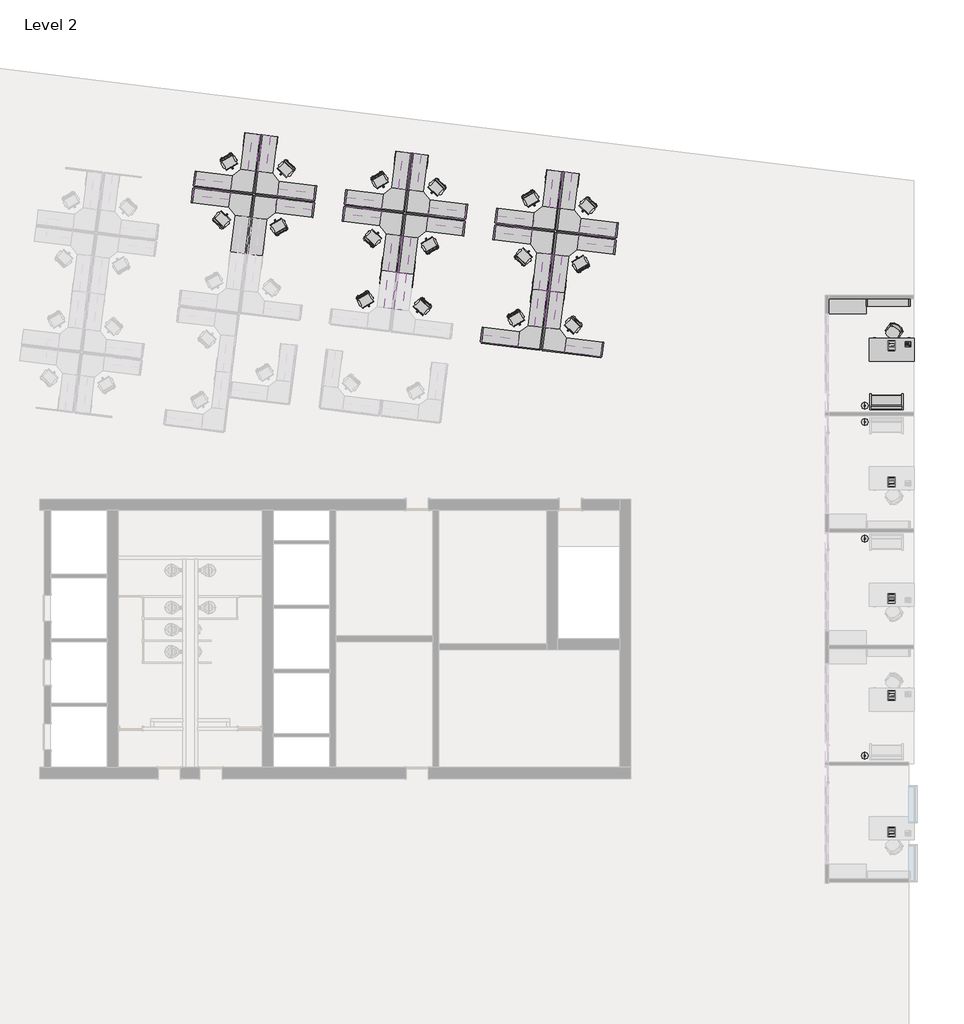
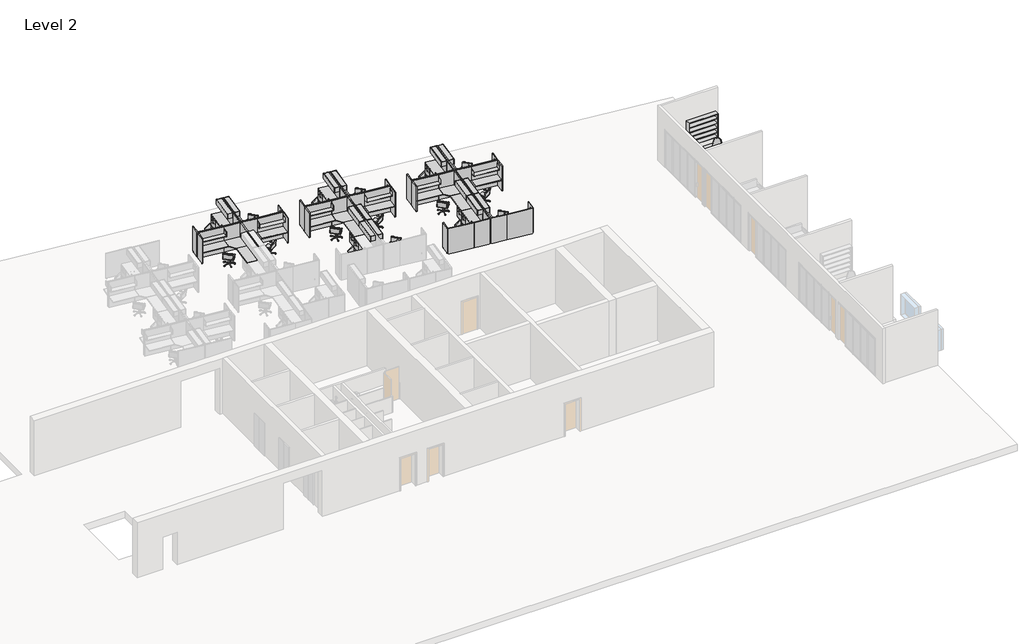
# One storey, part 7 of 7: 91 furniture elements, 6 proxies, 4 light fixtures.
"""IFC4 building model written with IfcOpenShell, lengths in millimetres."""

from ifc_helpers import new_model, si_unit, origin, place, context, project, spatial, transform, mapped, element, save
from components import entourage_0ad6723a, entourage_8dadc95b, phone_phone_5230e7aa, chair_executive_chair_executive_8d69e98c, chair_task_arms_chair_task_arms_3b363349, chair_task_arms_chair_task_arms_8395c10b, furniture_2f1724fb, furniture_665347ce, furniture_3ceed070, furniture_2fc54265, overhead_shelving_module_overhead_shelving_module_3ee17988, overhead_shelving_module_overhead_shelving_module_7dcda1b9, overhead_storage_module_overhead_storage_module_326dc690, overhead_storage_module_overhead_storage_module_bea9f75f, furniture_6f8441ab, furniture_8ec9ccbf, furniture_0333d240, furniture_4718bb14, furniture_45e3acac, furniture_7b33082a, floor_lamp_arm_extension_100w_120v_4af38d8b, floor_lamp_arm_extension_100w_120v_fe5062a9

model = new_model("IFC4")

# Units and contexts
model_context = context("Model", 3, world=origin())
ifc_project = project(units=[si_unit("LENGTHUNIT", "METRE", prefix="MILLI")], contexts=[model_context])

# Site, building, storey
site = spatial("IfcSite", under=ifc_project)
building = spatial("IfcBuilding", under=site)
storey = spatial("IfcBuildingStorey", under=building, Name="Level 2", Elevation=3657.6)

# Proxies
placement = place(None, origin())
entourage_shape = entourage_0ad6723a(model_context)
element("IfcBuildingElementProxy", 1, Name="RPC Notebook Computer : RPC Notebook Computer", ObjectType="RPC Notebook Computer : RPC Notebook Computer", at=placement, inside=storey, context=model_context, shape_type="MappedRepresentation", body=[
    mapped(entourage_shape, transform((14128.9054088, 3143.6530205, 4419.6), x_axis=(-1.0, 0.0, 0.0), y_axis=(0.0, -1.0, 0.0), z_axis=(0.0, 0.0, 1.0))),
])
element("IfcBuildingElementProxy", 2, Name="RPC Notebook Computer : RPC Notebook Computer", ObjectType="RPC Notebook Computer : RPC Notebook Computer", at=placement, inside=storey, context=model_context, shape_type="MappedRepresentation", body=[
    mapped(entourage_shape, transform((14128.9054088, -11359.8598812, 4419.6), x_axis=(-1.0, 0.0, 0.0), y_axis=(0.0, -1.0, 0.0), z_axis=(0.0, 0.0, 1.0))),
])
entourage_2_shape = entourage_8dadc95b(model_context)
element("IfcBuildingElementProxy", 3, Name="RPC Notebook Computer : RPC Notebook Computer", ObjectType="RPC Notebook Computer : RPC Notebook Computer", at=placement, inside=storey, context=model_context, shape_type="MappedRepresentation", body=[
    mapped(entourage_2_shape, transform((14128.9054088, -2561.0729155, 4419.6), x_axis=(-1.0, 0.0, 0.0), y_axis=(0.0, -1.0, 0.0), z_axis=(0.0, 0.0, 1.0))),
])
element("IfcBuildingElementProxy", 4, Name="RPC Notebook Computer : RPC Notebook Computer", ObjectType="RPC Notebook Computer : RPC Notebook Computer", at=placement, inside=storey, context=model_context, shape_type="MappedRepresentation", body=[
    mapped(entourage_2_shape, transform((14128.9054088, -7395.577216, 4419.6), x_axis=(-1.0, 0.0, 0.0), y_axis=(0.0, -1.0, 0.0), z_axis=(0.0, 0.0, 1.0))),
])
element("IfcBuildingElementProxy", 5, Name="RPC Notebook Computer : RPC Notebook Computer", ObjectType="RPC Notebook Computer : RPC Notebook Computer", at=placement, inside=storey, context=model_context, shape_type="MappedRepresentation", body=[
    mapped(entourage_2_shape, transform((14128.9054088, -17064.5858172, 4419.6), x_axis=(-1.0, 0.0, 0.0), y_axis=(0.0, -1.0, 0.0), z_axis=(0.0, 0.0, 1.0))),
])
phone_phone_shape = phone_phone_5230e7aa(model_context)
element("IfcBuildingElementProxy", 6, Name="Phone : Phone", ObjectType="Phone : Phone", at=placement, inside=storey, context=model_context, shape_type="MappedRepresentation", body=[
    mapped(phone_phone_shape, transform((15049.386755, 2959.7567915, 4419.6), x_axis=(1.0, 0.0, 0.0), y_axis=(0.0, 1.0, 0.0), z_axis=(0.0, 0.0, 1.0))),
])

# Furniture
chair_executive_chair_executive_shape = chair_executive_chair_executive_8d69e98c(model_context)
element("IfcFurniture", 7, ObjectType="Chair-Executive : Chair-Executive", at=placement, inside=storey, context=model_context, shape_type="MappedRepresentation", body=[
    mapped(chair_executive_chair_executive_shape, transform((14331.1988374, 3608.0945539, 3657.6), x_axis=(-0.8386705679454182, 0.5446390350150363, 0.0), y_axis=(-0.5446390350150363, -0.8386705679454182, 0.0), z_axis=(0.0, 0.0, 1.0))),
])
chair_task_arms_chair_task_arms_shape = chair_task_arms_chair_task_arms_3b363349(model_context)
element("IfcFurniture", 8, ObjectType="Chair-Task Arms : Chair-Task Arms", at=placement, inside=storey, context=model_context, shape_type="MappedRepresentation", body=[
    mapped(chair_task_arms_chair_task_arms_shape, transform((-13751.3216065, 8411.1318115, 3657.6), x_axis=(0.7193398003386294, -0.6946583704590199, 0.0), y_axis=(0.6946583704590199, 0.7193398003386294, 0.0), z_axis=(0.0, 0.0, 1.0))),
])
element("IfcFurniture", 9, ObjectType="Chair-Task Arms : Chair-Task Arms", at=placement, inside=storey, context=model_context, shape_type="MappedRepresentation", body=[
    mapped(chair_task_arms_chair_task_arms_shape, transform((-7499.074888, 7643.4524435, 3657.6), x_axis=(0.7193398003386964, -0.6946583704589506, 0.0), y_axis=(0.6946583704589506, 0.7193398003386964, 0.0), z_axis=(0.0, 0.0, 1.0))),
])
element("IfcFurniture", 10, ObjectType="Chair-Task Arms : Chair-Task Arms", at=placement, inside=storey, context=model_context, shape_type="MappedRepresentation", body=[
    mapped(chair_task_arms_chair_task_arms_shape, transform((-10847.9259123, 10367.6844822, 3657.6), x_axis=(-0.719339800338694, 0.694658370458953, 0.0), y_axis=(-0.694658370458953, -0.719339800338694, 0.0), z_axis=(0.0, 0.0, 1.0))),
])
element("IfcFurniture", 11, ObjectType="Chair-Task Arms : Chair-Task Arms", at=placement, inside=storey, context=model_context, shape_type="MappedRepresentation", body=[
    mapped(chair_task_arms_chair_task_arms_shape, transform((-4595.6791939, 9600.0051143, 3657.6), x_axis=(-0.719339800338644, 0.6946583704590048, 0.0), y_axis=(-0.6946583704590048, -0.719339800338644, 0.0), z_axis=(0.0, 0.0, 1.0))),
])
element("IfcFurniture", 12, ObjectType="Chair-Task Arms : Chair-Task Arms", at=placement, inside=storey, context=model_context, shape_type="MappedRepresentation", body=[
    mapped(chair_task_arms_chair_task_arms_shape, transform((-5202.3935331, 4658.7133529, 3657.6), x_axis=(-0.7193398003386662, 0.6946583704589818, 0.0), y_axis=(-0.6946583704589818, -0.7193398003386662, 0.0), z_axis=(0.0, 0.0, 1.0))),
])
element("IfcFurniture", 13, ObjectType="Chair-Task Arms : Chair-Task Arms", at=placement, inside=storey, context=model_context, shape_type="MappedRepresentation", body=[
    mapped(chair_task_arms_chair_task_arms_shape, transform((-1246.8281696, 6875.7730755, 3657.6), x_axis=(0.7193398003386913, -0.694658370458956, 0.0), y_axis=(0.694658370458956, 0.7193398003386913, 0.0), z_axis=(0.0, 0.0, 1.0))),
])
element("IfcFurniture", 14, ObjectType="Chair-Task Arms : Chair-Task Arms", at=placement, inside=storey, context=model_context, shape_type="MappedRepresentation", body=[
    mapped(chair_task_arms_chair_task_arms_shape, transform((1656.5675245, 8832.3257463, 3657.6), x_axis=(-0.7193398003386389, 0.6946583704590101, 0.0), y_axis=(-0.6946583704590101, -0.7193398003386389, 0.0), z_axis=(0.0, 0.0, 1.0))),
])
element("IfcFurniture", 15, ObjectType="Chair-Task Arms : Chair-Task Arms", at=placement, inside=storey, context=model_context, shape_type="MappedRepresentation", body=[
    mapped(chair_task_arms_chair_task_arms_shape, transform((1049.8531853, 3891.033985, 3657.6), x_axis=(-0.7193398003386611, 0.6946583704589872, 0.0), y_axis=(-0.6946583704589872, -0.7193398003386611, 0.0), z_axis=(0.0, 0.0, 1.0))),
])
chair_task_arms_chair_task_arms_2_shape = chair_task_arms_chair_task_arms_8395c10b(model_context)
element("IfcFurniture", 16, ObjectType="Chair-Task Arms : Chair-Task Arms", at=placement, inside=storey, context=model_context, shape_type="MappedRepresentation", body=[
    mapped(chair_task_arms_chair_task_arms_2_shape, transform((-13471.5335108, 10689.8229892, 3657.6), x_axis=(0.8660254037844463, 0.4999999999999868, 0.0), y_axis=(-0.4999999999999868, 0.8660254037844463, 0.0), z_axis=(0.0, 0.0, 1.0))),
])
element("IfcFurniture", 17, ObjectType="Chair-Task Arms : Chair-Task Arms", at=placement, inside=storey, context=model_context, shape_type="MappedRepresentation", body=[
    mapped(chair_task_arms_chair_task_arms_2_shape, transform((-7219.2867923, 9922.1436212, 3657.6), x_axis=(0.8660254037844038, 0.5000000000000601, 0.0), y_axis=(-0.5000000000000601, 0.8660254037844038, 0.0), z_axis=(0.0, 0.0, 1.0))),
])
element("IfcFurniture", 18, ObjectType="Chair-Task Arms : Chair-Task Arms", at=placement, inside=storey, context=model_context, shape_type="MappedRepresentation", body=[
    mapped(chair_task_arms_chair_task_arms_2_shape, transform((-11127.714008, 8088.9933045, 3657.6), x_axis=(-0.8660254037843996, -0.5000000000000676, 0.0), y_axis=(0.5000000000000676, -0.8660254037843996, 0.0), z_axis=(0.0, 0.0, 1.0))),
])
element("IfcFurniture", 19, ObjectType="Chair-Task Arms : Chair-Task Arms", at=placement, inside=storey, context=model_context, shape_type="MappedRepresentation", body=[
    mapped(chair_task_arms_chair_task_arms_2_shape, transform((-7826.0011316, 4980.8518599, 3657.6), x_axis=(0.8660254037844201, 0.5000000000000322, 0.0), y_axis=(-0.5000000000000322, 0.8660254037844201, 0.0), z_axis=(0.0, 0.0, 1.0))),
])
element("IfcFurniture", 20, ObjectType="Chair-Task Arms : Chair-Task Arms", at=placement, inside=storey, context=model_context, shape_type="MappedRepresentation", body=[
    mapped(chair_task_arms_chair_task_arms_2_shape, transform((-4875.4672896, 7321.3139366, 3657.6), x_axis=(-0.8660254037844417, -0.49999999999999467, 0.0), y_axis=(0.49999999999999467, -0.8660254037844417, 0.0), z_axis=(0.0, 0.0, 1.0))),
])
element("IfcFurniture", 21, ObjectType="Chair-Task Arms : Chair-Task Arms", at=placement, inside=storey, context=model_context, shape_type="MappedRepresentation", body=[
    mapped(chair_task_arms_chair_task_arms_2_shape, transform((-967.0400739, 9154.4642532, 3657.6), x_axis=(0.8660254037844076, 0.5000000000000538, 0.0), y_axis=(-0.5000000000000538, 0.8660254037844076, 0.0), z_axis=(0.0, 0.0, 1.0))),
])
element("IfcFurniture", 22, ObjectType="Chair-Task Arms : Chair-Task Arms", at=placement, inside=storey, context=model_context, shape_type="MappedRepresentation", body=[
    mapped(chair_task_arms_chair_task_arms_2_shape, transform((-1573.7544131, 4213.1724919, 3657.6), x_axis=(0.8660254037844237, 0.5000000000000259, 0.0), y_axis=(-0.5000000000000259, 0.8660254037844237, 0.0), z_axis=(0.0, 0.0, 1.0))),
])
element("IfcFurniture", 23, ObjectType="Chair-Task Arms : Chair-Task Arms", at=placement, inside=storey, context=model_context, shape_type="MappedRepresentation", body=[
    mapped(chair_task_arms_chair_task_arms_2_shape, transform((1376.7794288, 6553.6345686, 3657.6), x_axis=(-0.8660254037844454, -0.4999999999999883, 0.0), y_axis=(0.4999999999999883, -0.8660254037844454, 0.0), z_axis=(0.0, 0.0, 1.0))),
])
furniture_shape = furniture_2f1724fb(model_context)
element("IfcFurniture", 24, ObjectType="Credenza : 60\" x 24\"", at=placement, inside=storey, context=model_context, shape_type="MappedRepresentation", body=[
    mapped(furniture_shape, transform((12221.5111465, 4755.7246809, 3657.6), x_axis=(1.0, 0.0, 0.0), y_axis=(0.0, 1.0, 0.0), z_axis=(0.0, 0.0, 1.0))),
])
furniture_2_shape = furniture_665347ce(model_context)
element("IfcFurniture", 25, ObjectType="Cube Panel : 24\" x 66\"", at=placement, inside=storey, context=model_context, shape_type="MappedRepresentation", body=[
    mapped(furniture_2_shape, transform((-14838.8170508, 9342.9113863, 3657.6), x_axis=(-0.12186934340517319, -0.9925461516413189, 0.0), y_axis=(0.9925461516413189, -0.12186934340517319, 0.0), z_axis=(0.0, 0.0, 1.0))),
])
element("IfcFurniture", 26, ObjectType="Cube Panel : 24\" x 66\"", at=placement, inside=storey, context=model_context, shape_type="MappedRepresentation", body=[
    mapped(furniture_2_shape, transform((-8586.5703324, 8575.2320183, 3657.6), x_axis=(-0.12186934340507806, -0.9925461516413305, 0.0), y_axis=(0.9925461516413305, -0.12186934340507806, 0.0), z_axis=(0.0, 0.0, 1.0))),
])
element("IfcFurniture", 27, ObjectType="Cube Panel : 24\" x 66\"", at=placement, inside=storey, context=model_context, shape_type="MappedRepresentation", body=[
    mapped(furniture_2_shape, transform((-9760.430468, 9435.9049075, 3657.6), x_axis=(0.12186934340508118, 0.9925461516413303, 0.0), y_axis=(-0.9925461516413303, 0.12186934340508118, 0.0), z_axis=(0.0, 0.0, 1.0))),
])
element("IfcFurniture", 28, ObjectType="Cube Panel : 24\" x 66\"", at=placement, inside=storey, context=model_context, shape_type="MappedRepresentation", body=[
    mapped(furniture_2_shape, transform((-3508.1837495, 8668.2255395, 3657.6), x_axis=(0.12186934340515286, 0.9925461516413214, 0.0), y_axis=(-0.9925461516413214, 0.12186934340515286, 0.0), z_axis=(0.0, 0.0, 1.0))),
])
element("IfcFurniture", 29, ObjectType="Cube Panel : 24\" x 66\"", at=placement, inside=storey, context=model_context, shape_type="MappedRepresentation", body=[
    mapped(furniture_2_shape, transform((-2334.323614, 7807.5526503, 3657.6), x_axis=(-0.12186934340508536, -0.9925461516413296, 0.0), y_axis=(0.9925461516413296, -0.12186934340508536, 0.0), z_axis=(0.0, 0.0, 1.0))),
])
element("IfcFurniture", 30, ObjectType="Cube Panel : 24\" x 66\"", at=placement, inside=storey, context=model_context, shape_type="MappedRepresentation", body=[
    mapped(furniture_2_shape, transform((2744.0629689, 7900.5461715, 3657.6), x_axis=(0.12186934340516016, 0.9925461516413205, 0.0), y_axis=(-0.9925461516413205, 0.12186934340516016, 0.0), z_axis=(0.0, 0.0, 1.0))),
])
element("IfcFurniture", 31, ObjectType="Cube Panel : 24\" x 66\"", at=placement, inside=storey, context=model_context, shape_type="MappedRepresentation", body=[
    mapped(furniture_2_shape, transform((2137.3486297, 2959.2544102, 3657.6), x_axis=(0.12186934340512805, 0.9925461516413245, 0.0), y_axis=(-0.9925461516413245, 0.12186934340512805, 0.0), z_axis=(0.0, 0.0, 1.0))),
])
furniture_3_shape = furniture_3ceed070(model_context)
element("IfcFurniture", 32, ObjectType="Cube Panel : 24\" x 66\"", at=placement, inside=storey, context=model_context, shape_type="MappedRepresentation", body=[
    mapped(furniture_3_shape, transform((-14752.1435738, 10048.8102093, 3657.6), x_axis=(0.1218693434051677, 0.9925461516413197, 0.0), y_axis=(-0.9925461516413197, 0.1218693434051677, 0.0), z_axis=(0.0, 0.0, 1.0))),
])
element("IfcFurniture", 33, ObjectType="Cube Panel : 24\" x 66\"", at=placement, inside=storey, context=model_context, shape_type="MappedRepresentation", body=[
    mapped(furniture_3_shape, transform((-8499.8968554, 9281.1308413, 3657.6), x_axis=(0.12186934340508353, 0.9925461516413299, 0.0), y_axis=(-0.9925461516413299, 0.12186934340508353, 0.0), z_axis=(0.0, 0.0, 1.0))),
])
element("IfcFurniture", 34, ObjectType="Cube Panel : 24\" x 66\"", at=placement, inside=storey, context=model_context, shape_type="MappedRepresentation", body=[
    mapped(furniture_3_shape, transform((-9847.103945, 8730.0060844, 3657.6), x_axis=(-0.1218693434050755, -0.992546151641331, 0.0), y_axis=(0.992546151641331, -0.1218693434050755, 0.0), z_axis=(0.0, 0.0, 1.0))),
])
element("IfcFurniture", 35, ObjectType="Cube Panel : 24\" x 66\"", at=placement, inside=storey, context=model_context, shape_type="MappedRepresentation", body=[
    mapped(furniture_3_shape, transform((-3594.8572266, 7962.3267164, 3657.6), x_axis=(-0.12186934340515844, -0.9925461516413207, 0.0), y_axis=(0.9925461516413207, -0.12186934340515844, 0.0), z_axis=(0.0, 0.0, 1.0))),
])
element("IfcFurniture", 36, ObjectType="Cube Panel : 24\" x 66\"", at=placement, inside=storey, context=model_context, shape_type="MappedRepresentation", body=[
    mapped(furniture_3_shape, transform((-2247.6501369, 8513.4514734, 3657.6), x_axis=(0.12186934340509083, 0.992546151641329, 0.0), y_axis=(-0.992546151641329, 0.12186934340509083, 0.0), z_axis=(0.0, 0.0, 1.0))),
])
element("IfcFurniture", 37, ObjectType="Cube Panel : 24\" x 66\"", at=placement, inside=storey, context=model_context, shape_type="MappedRepresentation", body=[
    mapped(furniture_3_shape, transform((-2854.3644762, 3572.159712, 3657.6), x_axis=(0.1218693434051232, 0.9925461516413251, 0.0), y_axis=(-0.9925461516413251, 0.1218693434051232, 0.0), z_axis=(0.0, 0.0, 1.0))),
])
element("IfcFurniture", 38, ObjectType="Cube Panel : 24\" x 66\"", at=placement, inside=storey, context=model_context, shape_type="MappedRepresentation", body=[
    mapped(furniture_3_shape, transform((2657.3894919, 7194.6473485, 3657.6), x_axis=(-0.12186934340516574, -0.9925461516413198, 0.0), y_axis=(0.9925461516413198, -0.12186934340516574, 0.0), z_axis=(0.0, 0.0, 1.0))),
])
furniture_4_shape = furniture_2fc54265(model_context)
element("IfcFurniture", 39, ObjectType="Desk : 72\" x 36\"", at=placement, inside=storey, context=model_context, shape_type="MappedRepresentation", body=[
    mapped(furniture_4_shape, transform((13214.5054088, 2495.9530205, 3657.6), x_axis=(1.0, 0.0, 0.0), y_axis=(0.0, 1.0, 0.0), z_axis=(0.0, 0.0, 1.0))),
])
overhead_shelving_module_overhead_shelving_module_shape = overhead_shelving_module_overhead_shelving_module_3ee17988(model_context)
element("IfcFurniture", 40, ObjectType="Overhead Shelving Module : Overhead Shelving Module", at=placement, inside=storey, context=model_context, shape_type="MappedRepresentation", body=[
    mapped(overhead_shelving_module_overhead_shelving_module_shape, transform((-13892.315159, 9295.8473751, 3505.2), x_axis=(0.9925461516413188, -0.12186934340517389, 0.0), y_axis=(0.12186934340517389, 0.9925461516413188, 0.0), z_axis=(0.0, 0.0, 1.0))),
])
element("IfcFurniture", 41, ObjectType="Overhead Shelving Module : Overhead Shelving Module", at=placement, inside=storey, context=model_context, shape_type="MappedRepresentation", body=[
    mapped(overhead_shelving_module_overhead_shelving_module_shape, transform((-7640.0684405, 8528.1680071, 3505.2), x_axis=(0.9925461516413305, -0.12186934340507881, 0.0), y_axis=(0.12186934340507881, 0.9925461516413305, 0.0), z_axis=(0.0, 0.0, 1.0))),
])
element("IfcFurniture", 42, ObjectType="Overhead Shelving Module : Overhead Shelving Module", at=placement, inside=storey, context=model_context, shape_type="MappedRepresentation", body=[
    mapped(overhead_shelving_module_overhead_shelving_module_shape, transform((-10706.9323598, 9482.9689186, 3505.2), x_axis=(-0.9925461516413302, 0.12186934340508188, 0.0), y_axis=(-0.12186934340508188, -0.9925461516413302, 0.0), z_axis=(0.0, 0.0, 1.0))),
])
element("IfcFurniture", 43, ObjectType="Overhead Shelving Module : Overhead Shelving Module", at=placement, inside=storey, context=model_context, shape_type="MappedRepresentation", body=[
    mapped(overhead_shelving_module_overhead_shelving_module_shape, transform((-4454.6856414, 8715.2895506, 3505.2), x_axis=(-0.9925461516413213, 0.12186934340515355, 0.0), y_axis=(-0.12186934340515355, -0.9925461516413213, 0.0), z_axis=(0.0, 0.0, 1.0))),
])
element("IfcFurniture", 44, ObjectType="Overhead Shelving Module : Overhead Shelving Module", at=placement, inside=storey, context=model_context, shape_type="MappedRepresentation", body=[
    mapped(overhead_shelving_module_overhead_shelving_module_shape, transform((-1387.8217221, 7760.4886392, 3505.2), x_axis=(0.9925461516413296, -0.12186934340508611, 0.0), y_axis=(0.12186934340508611, 0.9925461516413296, 0.0), z_axis=(0.0, 0.0, 1.0))),
])
element("IfcFurniture", 45, ObjectType="Overhead Shelving Module : Overhead Shelving Module", at=placement, inside=storey, context=model_context, shape_type="MappedRepresentation", body=[
    mapped(overhead_shelving_module_overhead_shelving_module_shape, transform((1797.561077, 7947.6101827, 3505.2), x_axis=(-0.9925461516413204, 0.12186934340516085, 0.0), y_axis=(-0.12186934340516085, -0.9925461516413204, 0.0), z_axis=(0.0, 0.0, 1.0))),
])
element("IfcFurniture", 46, ObjectType="Overhead Shelving Module : Overhead Shelving Module", at=placement, inside=storey, context=model_context, shape_type="MappedRepresentation", body=[
    mapped(overhead_shelving_module_overhead_shelving_module_shape, transform((1190.8467378, 3006.3184213, 3505.2), x_axis=(-0.9925461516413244, 0.1218693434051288, 0.0), y_axis=(-0.1218693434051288, -0.9925461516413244, 0.0), z_axis=(0.0, 0.0, 1.0))),
])
overhead_shelving_module_overhead_shelving_module_2_shape = overhead_shelving_module_overhead_shelving_module_7dcda1b9(model_context)
element("IfcFurniture", 47, ObjectType="Overhead Shelving Module : Overhead Shelving Module", at=placement, inside=storey, context=model_context, shape_type="MappedRepresentation", body=[
    mapped(overhead_shelving_module_overhead_shelving_module_2_shape, transform((-13822.3710184, 9865.4966863, 3505.2), x_axis=(0.9925461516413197, -0.12186934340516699, 0.0), y_axis=(0.12186934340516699, 0.9925461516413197, 0.0), z_axis=(0.0, 0.0, 1.0))),
])
element("IfcFurniture", 48, ObjectType="Overhead Shelving Module : Overhead Shelving Module", at=placement, inside=storey, context=model_context, shape_type="MappedRepresentation", body=[
    mapped(overhead_shelving_module_overhead_shelving_module_2_shape, transform((-7570.1243, 9097.8173184, 3505.2), x_axis=(0.9925461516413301, -0.12186934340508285, 0.0), y_axis=(0.12186934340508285, 0.9925461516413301, 0.0), z_axis=(0.0, 0.0, 1.0))),
])
element("IfcFurniture", 49, ObjectType="Overhead Shelving Module : Overhead Shelving Module", at=placement, inside=storey, context=model_context, shape_type="MappedRepresentation", body=[
    mapped(overhead_shelving_module_overhead_shelving_module_2_shape, transform((-10776.8765003, 8913.3196074, 3505.2), x_axis=(-0.992546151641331, 0.12186934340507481, 0.0), y_axis=(-0.12186934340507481, -0.992546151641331, 0.0), z_axis=(0.0, 0.0, 1.0))),
])
element("IfcFurniture", 50, ObjectType="Overhead Shelving Module : Overhead Shelving Module", at=placement, inside=storey, context=model_context, shape_type="MappedRepresentation", body=[
    mapped(overhead_shelving_module_overhead_shelving_module_2_shape, transform((-4524.6297819, 8145.6402394, 3505.2), x_axis=(-0.9925461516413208, 0.1218693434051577, 0.0), y_axis=(-0.1218693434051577, -0.9925461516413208, 0.0), z_axis=(0.0, 0.0, 1.0))),
])
element("IfcFurniture", 51, ObjectType="Overhead Shelving Module : Overhead Shelving Module", at=placement, inside=storey, context=model_context, shape_type="MappedRepresentation", body=[
    mapped(overhead_shelving_module_overhead_shelving_module_2_shape, transform((-1317.8775816, 8330.1379504, 3505.2), x_axis=(0.9925461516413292, -0.12186934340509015, 0.0), y_axis=(0.12186934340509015, 0.9925461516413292, 0.0), z_axis=(0.0, 0.0, 1.0))),
])
element("IfcFurniture", 52, ObjectType="Overhead Shelving Module : Overhead Shelving Module", at=placement, inside=storey, context=model_context, shape_type="MappedRepresentation", body=[
    mapped(overhead_shelving_module_overhead_shelving_module_2_shape, transform((-1924.5919208, 3388.846189, 3505.2), x_axis=(0.9925461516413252, -0.12186934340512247, 0.0), y_axis=(0.12186934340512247, 0.9925461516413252, 0.0), z_axis=(0.0, 0.0, 1.0))),
])
element("IfcFurniture", 53, ObjectType="Overhead Shelving Module : Overhead Shelving Module", at=placement, inside=storey, context=model_context, shape_type="MappedRepresentation", body=[
    mapped(overhead_shelving_module_overhead_shelving_module_2_shape, transform((1727.6169365, 7377.9608714, 3505.2), x_axis=(-0.9925461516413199, 0.121869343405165, 0.0), y_axis=(-0.121869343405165, -0.9925461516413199, 0.0), z_axis=(0.0, 0.0, 1.0))),
])
overhead_storage_module_overhead_storage_module_shape = overhead_storage_module_overhead_storage_module_326dc690(model_context)
element("IfcFurniture", 54, ObjectType="Overhead Storage Module : Overhead Storage Module", at=placement, inside=storey, context=model_context, shape_type="MappedRepresentation", body=[
    mapped(overhead_storage_module_overhead_storage_module_shape, transform((-6561.9232726, 6785.7687522, 3657.6), x_axis=(-0.12186934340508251, -0.9925461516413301, 0.0), y_axis=(0.9925461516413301, -0.12186934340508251, 0.0), z_axis=(0.0, 0.0, 1.0))),
])
element("IfcFurniture", 55, ObjectType="Overhead Storage Module : Overhead Storage Module", at=placement, inside=storey, context=model_context, shape_type="MappedRepresentation", body=[
    mapped(overhead_storage_module_overhead_storage_module_shape, transform((-11785.0775278, 11225.3681735, 3657.6), x_axis=(0.1218693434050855, 0.9925461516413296, 0.0), y_axis=(-0.9925461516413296, 0.1218693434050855, 0.0), z_axis=(0.0, 0.0, 1.0))),
])
element("IfcFurniture", 56, ObjectType="Overhead Storage Module : Overhead Storage Module", at=placement, inside=storey, context=model_context, shape_type="MappedRepresentation", body=[
    mapped(overhead_storage_module_overhead_storage_module_shape, transform((-5532.8308094, 10457.6888055, 3657.6), x_axis=(0.12186934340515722, 0.9925461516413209, 0.0), y_axis=(-0.9925461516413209, 0.12186934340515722, 0.0), z_axis=(0.0, 0.0, 1.0))),
])
element("IfcFurniture", 57, ObjectType="Overhead Storage Module : Overhead Storage Module", at=placement, inside=storey, context=model_context, shape_type="MappedRepresentation", body=[
    mapped(overhead_storage_module_overhead_storage_module_shape, transform((-6139.5451486, 5516.3970442, 3657.6), x_axis=(0.1218693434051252, 0.9925461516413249, 0.0), y_axis=(-0.9925461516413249, 0.1218693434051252, 0.0), z_axis=(0.0, 0.0, 1.0))),
])
element("IfcFurniture", 58, ObjectType="Overhead Storage Module : Overhead Storage Module", at=placement, inside=storey, context=model_context, shape_type="MappedRepresentation", body=[
    mapped(overhead_storage_module_overhead_storage_module_shape, transform((-309.6765541, 6018.0893843, 3657.6), x_axis=(-0.12186934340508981, -0.9925461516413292, 0.0), y_axis=(0.9925461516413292, -0.12186934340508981, 0.0), z_axis=(0.0, 0.0, 1.0))),
])
element("IfcFurniture", 59, ObjectType="Overhead Storage Module : Overhead Storage Module", at=placement, inside=storey, context=model_context, shape_type="MappedRepresentation", body=[
    mapped(overhead_storage_module_overhead_storage_module_shape, transform((719.4159091, 9690.0094376, 3657.6), x_axis=(0.12186934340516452, 0.99254615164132, 0.0), y_axis=(-0.99254615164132, 0.12186934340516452, 0.0), z_axis=(0.0, 0.0, 1.0))),
])
element("IfcFurniture", 60, ObjectType="Overhead Storage Module : Overhead Storage Module", at=placement, inside=storey, context=model_context, shape_type="MappedRepresentation", body=[
    mapped(overhead_storage_module_overhead_storage_module_shape, transform((112.7015698, 4748.7176762, 3657.6), x_axis=(0.1218693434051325, 0.992546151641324, 0.0), y_axis=(-0.992546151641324, 0.1218693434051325, 0.0), z_axis=(0.0, 0.0, 1.0))),
])
overhead_storage_module_overhead_storage_module_2_shape = overhead_storage_module_overhead_storage_module_bea9f75f(model_context)
element("IfcFurniture", 61, ObjectType="Overhead Storage Module : Overhead Storage Module", at=placement, inside=storey, context=model_context, shape_type="MappedRepresentation", body=[
    mapped(overhead_storage_module_overhead_storage_module_2_shape, transform((-12354.726839, 11295.3123141, 3657.6), x_axis=(0.12186934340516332, 0.9925461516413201, 0.0), y_axis=(-0.9925461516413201, 0.12186934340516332, 0.0), z_axis=(0.0, 0.0, 1.0))),
])
element("IfcFurniture", 62, ObjectType="Overhead Storage Module : Overhead Storage Module", at=placement, inside=storey, context=model_context, shape_type="MappedRepresentation", body=[
    mapped(overhead_storage_module_overhead_storage_module_2_shape, transform((-6102.4801206, 10527.6329461, 3657.6), x_axis=(0.12186934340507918, 0.9925461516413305, 0.0), y_axis=(-0.9925461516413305, 0.12186934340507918, 0.0), z_axis=(0.0, 0.0, 1.0))),
])
element("IfcFurniture", 63, ObjectType="Overhead Storage Module : Overhead Storage Module", at=placement, inside=storey, context=model_context, shape_type="MappedRepresentation", body=[
    mapped(overhead_storage_module_overhead_storage_module_2_shape, transform((-6709.1944598, 5586.3411848, 3657.6), x_axis=(0.12186934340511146, 0.9925461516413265, 0.0), y_axis=(-0.9925461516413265, 0.12186934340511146, 0.0), z_axis=(0.0, 0.0, 1.0))),
])
element("IfcFurniture", 64, ObjectType="Overhead Storage Module : Overhead Storage Module", at=placement, inside=storey, context=model_context, shape_type="MappedRepresentation", body=[
    mapped(overhead_storage_module_overhead_storage_module_2_shape, transform((-5992.2739614, 6715.8246117, 3657.6), x_axis=(-0.12186934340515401, -0.9925461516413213, 0.0), y_axis=(0.9925461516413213, -0.12186934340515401, 0.0), z_axis=(0.0, 0.0, 1.0))),
])
element("IfcFurniture", 65, ObjectType="Overhead Storage Module : Overhead Storage Module", at=placement, inside=storey, context=model_context, shape_type="MappedRepresentation", body=[
    mapped(overhead_storage_module_overhead_storage_module_2_shape, transform((149.7665979, 9759.9535781, 3657.6), x_axis=(0.12186934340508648, 0.9925461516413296, 0.0), y_axis=(-0.9925461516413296, 0.12186934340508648, 0.0), z_axis=(0.0, 0.0, 1.0))),
])
element("IfcFurniture", 66, ObjectType="Overhead Storage Module : Overhead Storage Module", at=placement, inside=storey, context=model_context, shape_type="MappedRepresentation", body=[
    mapped(overhead_storage_module_overhead_storage_module_2_shape, transform((-456.9477414, 4818.6618168, 3657.6), x_axis=(0.12186934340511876, 0.9925461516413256, 0.0), y_axis=(-0.9925461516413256, 0.12186934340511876, 0.0), z_axis=(0.0, 0.0, 1.0))),
])
element("IfcFurniture", 67, ObjectType="Overhead Storage Module : Overhead Storage Module", at=placement, inside=storey, context=model_context, shape_type="MappedRepresentation", body=[
    mapped(overhead_storage_module_overhead_storage_module_2_shape, transform((259.9727571, 5948.1452437, 3657.6), x_axis=(-0.12186934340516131, -0.9925461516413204, 0.0), y_axis=(0.9925461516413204, -0.12186934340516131, 0.0), z_axis=(0.0, 0.0, 1.0))),
])
furniture_5_shape = furniture_6f8441ab(model_context)
element("IfcFurniture", 68, ObjectType="Shelving : 96\" x 12\" x 84\"", at=placement, inside=storey, context=model_context, shape_type="MappedRepresentation", body=[
    mapped(furniture_5_shape, transform((13982.8554088, 5208.3443531, 3657.6), x_axis=(1.0, 0.0, 0.0), y_axis=(0.0, 1.0, 0.0), z_axis=(0.0, 0.0, 1.0))),
])
furniture_6_shape = furniture_8ec9ccbf(model_context)
element("IfcFurniture", 69, ObjectType="Sofa : 54\"", at=placement, inside=storey, context=model_context, shape_type="MappedRepresentation", body=[
    mapped(furniture_6_shape, transform((13848.0435844, 933.0927839, 3657.6), x_axis=(1.0, 0.0, 0.0), y_axis=(0.0, 1.0, 0.0), z_axis=(0.0, 0.0, 1.0))),
])
furniture_7_shape = furniture_0333d240(model_context)
element("IfcFurniture", 70, ObjectType="Storage Pedestal : 20\" x 30\" x 36\"", at=placement, inside=storey, context=model_context, shape_type="MappedRepresentation", body=[
    mapped(furniture_7_shape, transform((-5833.5477932, 6187.7041847, 3657.6), x_axis=(-0.12186934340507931, -0.9925461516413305, 0.0), y_axis=(0.9925461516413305, -0.12186934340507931, 0.0), z_axis=(0.0, 0.0, 1.0))),
])
element("IfcFurniture", 71, ObjectType="Storage Pedestal : 20\" x 30\" x 36\"", at=placement, inside=storey, context=model_context, shape_type="MappedRepresentation", body=[
    mapped(furniture_7_shape, transform((-12513.4530071, 11823.432741, 3657.6), x_axis=(0.12186934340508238, 0.9925461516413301, 0.0), y_axis=(-0.9925461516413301, 0.12186934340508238, 0.0), z_axis=(0.0, 0.0, 1.0))),
])
element("IfcFurniture", 72, ObjectType="Storage Pedestal : 20\" x 30\" x 36\"", at=placement, inside=storey, context=model_context, shape_type="MappedRepresentation", body=[
    mapped(furniture_7_shape, transform((-6261.2062887, 11055.7533731, 3657.6), x_axis=(0.12186934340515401, 0.9925461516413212, 0.0), y_axis=(-0.9925461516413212, 0.12186934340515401, 0.0), z_axis=(0.0, 0.0, 1.0))),
])
element("IfcFurniture", 73, ObjectType="Storage Pedestal : 20\" x 30\" x 36\"", at=placement, inside=storey, context=model_context, shape_type="MappedRepresentation", body=[
    mapped(furniture_7_shape, transform((-6867.9206279, 6114.4616117, 3657.6), x_axis=(0.12186934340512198, 0.9925461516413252, 0.0), y_axis=(-0.9925461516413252, 0.12186934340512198, 0.0), z_axis=(0.0, 0.0, 1.0))),
])
element("IfcFurniture", 74, ObjectType="Storage Pedestal : 20\" x 30\" x 36\"", at=placement, inside=storey, context=model_context, shape_type="MappedRepresentation", body=[
    mapped(furniture_7_shape, transform((418.6989252, 5420.0248167, 3657.6), x_axis=(-0.12186934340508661, -0.9925461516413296, 0.0), y_axis=(0.9925461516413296, -0.12186934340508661, 0.0), z_axis=(0.0, 0.0, 1.0))),
])
element("IfcFurniture", 75, ObjectType="Storage Pedestal : 20\" x 30\" x 36\"", at=placement, inside=storey, context=model_context, shape_type="MappedRepresentation", body=[
    mapped(furniture_7_shape, transform((-8.9595703, 10288.0740051, 3657.6), x_axis=(0.12186934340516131, 0.9925461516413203, 0.0), y_axis=(-0.9925461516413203, 0.12186934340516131, 0.0), z_axis=(0.0, 0.0, 1.0))),
])
element("IfcFurniture", 76, ObjectType="Storage Pedestal : 20\" x 30\" x 36\"", at=placement, inside=storey, context=model_context, shape_type="MappedRepresentation", body=[
    mapped(furniture_7_shape, transform((-615.6739095, 5346.7822438, 3657.6), x_axis=(0.12186934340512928, 0.9925461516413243, 0.0), y_axis=(-0.9925461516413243, 0.12186934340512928, 0.0), z_axis=(0.0, 0.0, 1.0))),
])
furniture_8_shape = furniture_4718bb14(model_context)
element("IfcFurniture", 77, ObjectType="Storage Pedestal : 20\" x 30\" x 36\"", at=placement, inside=storey, context=model_context, shape_type="MappedRepresentation", body=[
    mapped(furniture_8_shape, transform((-11503.3023104, 11699.4018313, 3657.6), x_axis=(0.12186934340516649, 0.9925461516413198, 0.0), y_axis=(-0.9925461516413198, 0.12186934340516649, 0.0), z_axis=(0.0, 0.0, 1.0))),
])
element("IfcFurniture", 78, ObjectType="Storage Pedestal : 20\" x 30\" x 36\"", at=placement, inside=storey, context=model_context, shape_type="MappedRepresentation", body=[
    mapped(furniture_8_shape, transform((-5251.055592, 10931.7224633, 3657.6), x_axis=(0.12186934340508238, 0.9925461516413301, 0.0), y_axis=(-0.9925461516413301, 0.12186934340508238, 0.0), z_axis=(0.0, 0.0, 1.0))),
])
element("IfcFurniture", 79, ObjectType="Storage Pedestal : 20\" x 30\" x 36\"", at=placement, inside=storey, context=model_context, shape_type="MappedRepresentation", body=[
    mapped(furniture_8_shape, transform((-5857.7699312, 5990.430702, 3657.6), x_axis=(0.12186934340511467, 0.9925461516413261, 0.0), y_axis=(-0.9925461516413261, 0.12186934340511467, 0.0), z_axis=(0.0, 0.0, 1.0))),
])
element("IfcFurniture", 80, ObjectType="Storage Pedestal : 20\" x 30\" x 36\"", at=placement, inside=storey, context=model_context, shape_type="MappedRepresentation", body=[
    mapped(furniture_8_shape, transform((-6843.69849, 6311.7350944, 3657.6), x_axis=(-0.12186934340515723, -0.992546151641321, 0.0), y_axis=(0.992546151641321, -0.12186934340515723, 0.0), z_axis=(0.0, 0.0, 1.0))),
])
element("IfcFurniture", 81, ObjectType="Storage Pedestal : 20\" x 30\" x 36\"", at=placement, inside=storey, context=model_context, shape_type="MappedRepresentation", body=[
    mapped(furniture_8_shape, transform((1001.1911264, 10164.0430954, 3657.6), x_axis=(0.12186934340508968, 0.9925461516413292, 0.0), y_axis=(-0.9925461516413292, 0.12186934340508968, 0.0), z_axis=(0.0, 0.0, 1.0))),
])
element("IfcFurniture", 82, ObjectType="Storage Pedestal : 20\" x 30\" x 36\"", at=placement, inside=storey, context=model_context, shape_type="MappedRepresentation", body=[
    mapped(furniture_8_shape, transform((394.4767872, 5222.751334, 3657.6), x_axis=(0.12186934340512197, 0.9925461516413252, 0.0), y_axis=(-0.9925461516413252, 0.12186934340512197, 0.0), z_axis=(0.0, 0.0, 1.0))),
])
element("IfcFurniture", 83, ObjectType="Storage Pedestal : 20\" x 30\" x 36\"", at=placement, inside=storey, context=model_context, shape_type="MappedRepresentation", body=[
    mapped(furniture_8_shape, transform((-591.4517715, 5544.0557265, 3657.6), x_axis=(-0.12186934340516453, -0.9925461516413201, 0.0), y_axis=(0.9925461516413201, -0.12186934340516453, 0.0), z_axis=(0.0, 0.0, 1.0))),
])
furniture_9_shape = furniture_45e3acac(model_context)
element("IfcFurniture", 84, ObjectType="Work Station Cubicle : 96\" x 96\"", at=placement, inside=storey, context=model_context, shape_type="MappedRepresentation", body=[
    mapped(furniture_9_shape, transform((-11824.3446403, 9198.3301742, 3657.6), x_axis=(-0.1218693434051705, -0.9925461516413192, 0.0), y_axis=(0.9925461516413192, -0.1218693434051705, 0.0), z_axis=(0.0, 0.0, 1.0))),
])
element("IfcFurniture", 85, ObjectType="Work Station Cubicle : 96\" x 96\"", at=placement, inside=storey, context=model_context, shape_type="MappedRepresentation", body=[
    mapped(furniture_9_shape, transform((-5572.0979219, 8430.6508063, 3657.6), x_axis=(-0.12186934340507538, -0.992546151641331, 0.0), y_axis=(0.992546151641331, -0.12186934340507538, 0.0), z_axis=(0.0, 0.0, 1.0))),
])
element("IfcFurniture", 86, ObjectType="Work Station Cubicle : 96\" x 96\"", at=placement, inside=storey, context=model_context, shape_type="MappedRepresentation", body=[
    mapped(furniture_9_shape, transform((-12774.9028784, 9580.4861195, 3657.6), x_axis=(0.12186934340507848, 0.9925461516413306, 0.0), y_axis=(-0.9925461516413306, 0.12186934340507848, 0.0), z_axis=(0.0, 0.0, 1.0))),
])
element("IfcFurniture", 87, ObjectType="Work Station Cubicle : 96\" x 96\"", at=placement, inside=storey, context=model_context, shape_type="MappedRepresentation", body=[
    mapped(furniture_9_shape, transform((-6522.65616, 8812.8067515, 3657.6), x_axis=(0.12186934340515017, 0.9925461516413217, 0.0), y_axis=(-0.9925461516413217, 0.12186934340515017, 0.0), z_axis=(0.0, 0.0, 1.0))),
])
element("IfcFurniture", 88, ObjectType="Work Station Cubicle : 96\" x 96\"", at=placement, inside=storey, context=model_context, shape_type="MappedRepresentation", body=[
    mapped(furniture_9_shape, transform((680.1487965, 7662.9714383, 3657.6), x_axis=(-0.12186934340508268, -0.9925461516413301, 0.0), y_axis=(0.9925461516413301, -0.12186934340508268, 0.0), z_axis=(0.0, 0.0, 1.0))),
])
element("IfcFurniture", 89, ObjectType="Work Station Cubicle : 96\" x 96\"", at=placement, inside=storey, context=model_context, shape_type="MappedRepresentation", body=[
    mapped(furniture_9_shape, transform((-270.4094416, 8045.1273835, 3657.6), x_axis=(0.12186934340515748, 0.9925461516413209, 0.0), y_axis=(-0.9925461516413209, 0.12186934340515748, 0.0), z_axis=(0.0, 0.0, 1.0))),
])
element("IfcFurniture", 90, ObjectType="Work Station Cubicle : 96\" x 96\"", at=placement, inside=storey, context=model_context, shape_type="MappedRepresentation", body=[
    mapped(furniture_9_shape, transform((-877.1237808, 3103.8356222, 3657.6), x_axis=(0.12186934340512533, 0.9925461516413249, 0.0), y_axis=(-0.9925461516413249, 0.12186934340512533, 0.0), z_axis=(0.0, 0.0, 1.0))),
])
furniture_10_shape = furniture_7b33082a(model_context)
element("IfcFurniture", 91, ObjectType="Work Station Cubicle : 96\" x 96\"", at=placement, inside=storey, context=model_context, shape_type="MappedRepresentation", body=[
    mapped(furniture_10_shape, transform((-11792.236516, 9459.8298617, 3657.6), x_axis=(0.12186934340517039, 0.9925461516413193, 0.0), y_axis=(-0.9925461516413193, 0.12186934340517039, 0.0), z_axis=(0.0, 0.0, 1.0))),
])
element("IfcFurniture", 92, ObjectType="Work Station Cubicle : 96\" x 96\"", at=placement, inside=storey, context=model_context, shape_type="MappedRepresentation", body=[
    mapped(furniture_10_shape, transform((-5539.9897976, 8692.1504937, 3657.6), x_axis=(0.12186934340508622, 0.9925461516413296, 0.0), y_axis=(-0.9925461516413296, 0.12186934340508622, 0.0), z_axis=(0.0, 0.0, 1.0))),
])
element("IfcFurniture", 93, ObjectType="Work Station Cubicle : 96\" x 96\"", at=placement, inside=storey, context=model_context, shape_type="MappedRepresentation", body=[
    mapped(furniture_10_shape, transform((-12807.0110027, 9318.9864321, 3657.6), x_axis=(-0.12186934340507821, -0.9925461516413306, 0.0), y_axis=(0.9925461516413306, -0.12186934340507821, 0.0), z_axis=(0.0, 0.0, 1.0))),
])
element("IfcFurniture", 94, ObjectType="Work Station Cubicle : 96\" x 96\"", at=placement, inside=storey, context=model_context, shape_type="MappedRepresentation", body=[
    mapped(furniture_10_shape, transform((-6554.7642843, 8551.3070641, 3657.6), x_axis=(-0.12186934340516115, -0.9925461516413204, 0.0), y_axis=(0.9925461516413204, -0.12186934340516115, 0.0), z_axis=(0.0, 0.0, 1.0))),
])
element("IfcFurniture", 95, ObjectType="Work Station Cubicle : 96\" x 96\"", at=placement, inside=storey, context=model_context, shape_type="MappedRepresentation", body=[
    mapped(furniture_10_shape, transform((712.2569208, 7924.4711257, 3657.6), x_axis=(0.12186934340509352, 0.9925461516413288, 0.0), y_axis=(-0.9925461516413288, 0.12186934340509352, 0.0), z_axis=(0.0, 0.0, 1.0))),
])
element("IfcFurniture", 96, ObjectType="Work Station Cubicle : 96\" x 96\"", at=placement, inside=storey, context=model_context, shape_type="MappedRepresentation", body=[
    mapped(furniture_10_shape, transform((105.5425816, 2983.1793644, 3657.6), x_axis=(0.12186934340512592, 0.9925461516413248, 0.0), y_axis=(-0.9925461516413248, 0.12186934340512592, 0.0), z_axis=(0.0, 0.0, 1.0))),
])
element("IfcFurniture", 97, ObjectType="Work Station Cubicle : 96\" x 96\"", at=placement, inside=storey, context=model_context, shape_type="MappedRepresentation", body=[
    mapped(furniture_10_shape, transform((-302.5175659, 7783.6276961, 3657.6), x_axis=(-0.12186934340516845, -0.9925461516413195, 0.0), y_axis=(0.9925461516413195, -0.12186934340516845, 0.0), z_axis=(0.0, 0.0, 1.0))),
])

# Light fixtures
floor_lamp_arm_extension_100w_120v_shape = floor_lamp_arm_extension_100w_120v_4af38d8b(model_context)
element("IfcLightFixture", 98, ObjectType="Floor Lamp - Arm Extension : 100W - 120V", at=placement, inside=storey, context=model_context, shape_type="MappedRepresentation", body=[
    mapped(floor_lamp_arm_extension_100w_120v_shape, transform((13016.7140762, -47.4142481, 3657.6), x_axis=(-1.0, 0.0, 0.0), y_axis=(0.0, -1.0, 0.0), z_axis=(0.0, 0.0, 1.0))),
])
element("IfcLightFixture", 99, ObjectType="Floor Lamp - Arm Extension : 100W - 120V", at=placement, inside=storey, context=model_context, shape_type="MappedRepresentation", body=[
    mapped(floor_lamp_arm_extension_100w_120v_shape, transform((13016.7140762, -4881.9185486, 3657.6), x_axis=(-1.0, 0.0, 0.0), y_axis=(0.0, -1.0, 0.0), z_axis=(0.0, 0.0, 1.0))),
])
floor_lamp_arm_extension_100w_120v_2_shape = floor_lamp_arm_extension_100w_120v_fe5062a9(model_context)
element("IfcLightFixture", 100, ObjectType="Floor Lamp - Arm Extension : 100W - 120V", at=placement, inside=storey, context=model_context, shape_type="MappedRepresentation", body=[
    mapped(floor_lamp_arm_extension_100w_120v_2_shape, transform((13016.7140762, 629.9943531, 3657.6), x_axis=(-1.0, 0.0, 0.0), y_axis=(0.0, -1.0, 0.0), z_axis=(0.0, 0.0, 1.0))),
])
element("IfcLightFixture", 101, ObjectType="Floor Lamp - Arm Extension : 100W - 120V", at=placement, inside=storey, context=model_context, shape_type="MappedRepresentation", body=[
    mapped(floor_lamp_arm_extension_100w_120v_2_shape, transform((13016.7140762, -13873.5185486, 3657.6), x_axis=(-1.0, 0.0, 0.0), y_axis=(0.0, -1.0, 0.0), z_axis=(0.0, 0.0, 1.0))),
])

save(model, "model.ifc")
